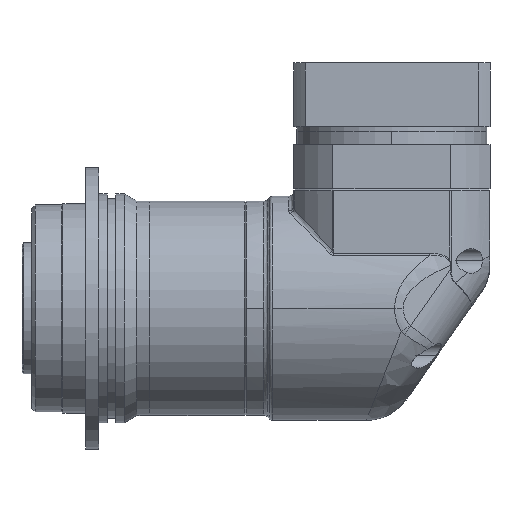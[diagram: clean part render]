
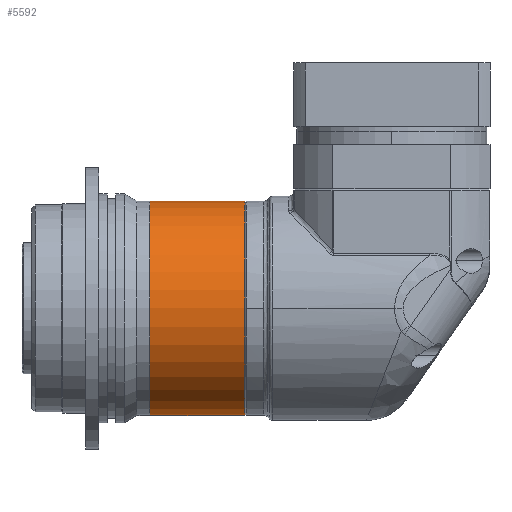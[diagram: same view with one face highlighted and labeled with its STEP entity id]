
A CAD part, front view. The second image highlights one B-rep face of the part: STEP entity #5592.
In plain terms, the highlighted cylindrical face has radius 32.75 mm (diameter 65.5 mm), a partial arc.
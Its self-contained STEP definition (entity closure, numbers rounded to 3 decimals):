
#542 = CARTESIAN_POINT ( 'NONE',  ( 0., 0., -32.75 ) ) ;
#684 = LINE ( 'NONE', #5593, #11160 ) ;
#880 = DIRECTION ( 'NONE',  ( 0., 0., 1. ) ) ;
#1125 = DIRECTION ( 'NONE',  ( 0., 0., 1. ) ) ;
#1627 = CARTESIAN_POINT ( 'NONE',  ( 0., 0., 32.75 ) ) ;
#2852 = EDGE_CURVE ( 'NONE', #10202, #5751, #4759, .T. ) ;
#3189 = LINE ( 'NONE', #542, #17276 ) ;
#3432 = VERTEX_POINT ( 'NONE', #13400 ) ;
#3498 = CIRCLE ( 'NONE', #11752, 32.75 ) ;
#3630 = CYLINDRICAL_SURFACE ( 'NONE', #6677, 32.75 ) ;
#4277 = DIRECTION ( 'NONE',  ( 1., 0., 0. ) ) ;
#4759 = CIRCLE ( 'NONE', #15557, 32.75 ) ;
#5151 = EDGE_LOOP ( 'NONE', ( #11073, #13786, #8505, #7214 ) ) ;
#5592 = ADVANCED_FACE ( 'NONE', ( #11751 ), #3630, .T. ) ;
#5593 = CARTESIAN_POINT ( 'NONE',  ( 0., 0., 32.75 ) ) ;
#5751 = VERTEX_POINT ( 'NONE', #12380 ) ;
#6677 = AXIS2_PLACEMENT_3D ( 'NONE', #17569, #16428, #6747 ) ;
#6747 = DIRECTION ( 'NONE',  ( 0., 0., -1. ) ) ;
#7214 = ORIENTED_EDGE ( 'NONE', *, *, #2852, .T. ) ;
#8505 = ORIENTED_EDGE ( 'NONE', *, *, #15406, .T. ) ;
#10202 = VERTEX_POINT ( 'NONE', #10573 ) ;
#10573 = CARTESIAN_POINT ( 'NONE',  ( 29., 0., -32.75 ) ) ;
#11073 = ORIENTED_EDGE ( 'NONE', *, *, #11797, .F. ) ;
#11160 = VECTOR ( 'NONE', #4277, 1000. ) ;
#11204 = EDGE_CURVE ( 'NONE', #3432, #15376, #3498, .T. ) ;
#11751 = FACE_OUTER_BOUND ( 'NONE', #5151, .T. ) ;
#11752 = AXIS2_PLACEMENT_3D ( 'NONE', #16100, #17473, #880 ) ;
#11797 = EDGE_CURVE ( 'NONE', #15376, #5751, #684, .T. ) ;
#12172 = DIRECTION ( 'NONE',  ( -1., 0., 0. ) ) ;
#12380 = CARTESIAN_POINT ( 'NONE',  ( 29., 0., 32.75 ) ) ;
#13400 = CARTESIAN_POINT ( 'NONE',  ( 0., 0., -32.75 ) ) ;
#13786 = ORIENTED_EDGE ( 'NONE', *, *, #11204, .F. ) ;
#14404 = DIRECTION ( 'NONE',  ( 1., 0., 0. ) ) ;
#14742 = CARTESIAN_POINT ( 'NONE',  ( 29., 0., 0. ) ) ;
#15376 = VERTEX_POINT ( 'NONE', #1627 ) ;
#15406 = EDGE_CURVE ( 'NONE', #3432, #10202, #3189, .T. ) ;
#15557 = AXIS2_PLACEMENT_3D ( 'NONE', #14742, #12172, #1125 ) ;
#16100 = CARTESIAN_POINT ( 'NONE',  ( 0., 0., 0. ) ) ;
#16428 = DIRECTION ( 'NONE',  ( 1., 0., 0. ) ) ;
#17276 = VECTOR ( 'NONE', #14404, 1000. ) ;
#17473 = DIRECTION ( 'NONE',  ( -1., 0., 0. ) ) ;
#17569 = CARTESIAN_POINT ( 'NONE',  ( 0., 0., 0. ) ) ;
